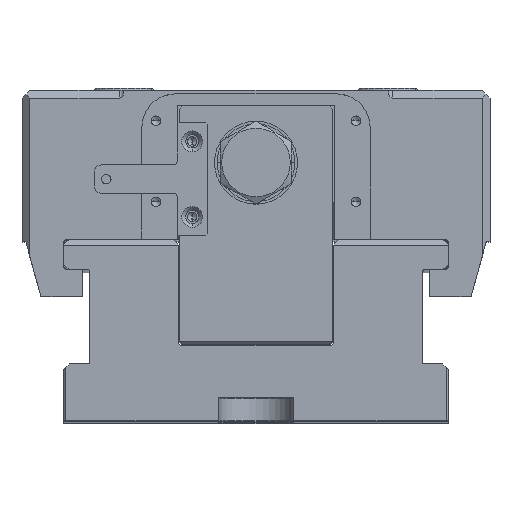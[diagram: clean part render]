
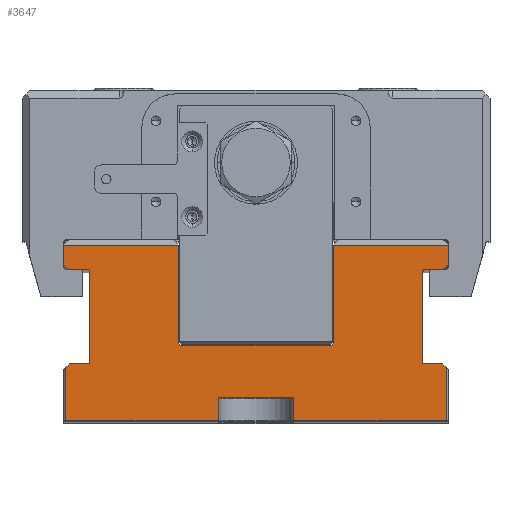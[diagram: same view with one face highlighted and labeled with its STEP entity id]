
A CAD part, top view. The second image highlights one B-rep face of the part: STEP entity #3647.
In plain terms, the highlighted planar face has unit normal (0, 0, 1).
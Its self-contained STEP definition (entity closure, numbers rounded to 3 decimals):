
#711=CARTESIAN_POINT('',(44.8,-8.2,155.));
#712=DIRECTION('',(0.,0.,-1.));
#713=DIRECTION('',(0.,-1.,0.));
#714=AXIS2_PLACEMENT_3D('',#711,#712,#713);
#881=CARTESIAN_POINT('',(-20.,-3.5,155.));
#882=DIRECTION('',(0.,0.,-1.));
#883=DIRECTION('',(0.,-1.,0.));
#884=AXIS2_PLACEMENT_3D('',#881,#882,#883);
#1133=DIRECTION('',(1.,0.,0.));
#1134=VECTOR('',#1133,4.7);
#1135=CARTESIAN_POINT('',(-49.5,-9.,155.));
#1136=LINE('',#1135,#1134);
#1137=DIRECTION('',(0.,1.,0.));
#1138=VECTOR('',#1137,23.4);
#1139=CARTESIAN_POINT('',(-44.,-8.2,155.));
#1140=LINE('',#1139,#1138);
#1141=DIRECTION('',(1.,0.,0.));
#1142=VECTOR('',#1141,4.7);
#1143=CARTESIAN_POINT('',(-49.5,16.,155.));
#1144=LINE('',#1143,#1142);
#1145=DIRECTION('',(0.707,-0.707,0.));
#1146=VECTOR('',#1145,2.121);
#1147=CARTESIAN_POINT('',(-51.,17.5,155.));
#1148=LINE('',#1147,#1146);
#1149=DIRECTION('',(0.,-1.,0.));
#1150=VECTOR('',#1149,5.);
#1151=CARTESIAN_POINT('',(-51.,22.5,155.));
#1152=LINE('',#1151,#1150);
#1153=DIRECTION('',(-1.,0.,0.));
#1154=VECTOR('',#1153,30.5);
#1155=CARTESIAN_POINT('',(-20.5,22.5,155.));
#1156=LINE('',#1155,#1154);
#1157=DIRECTION('',(0.,-1.,0.));
#1158=VECTOR('',#1157,26.);
#1159=CARTESIAN_POINT('',(-20.5,22.5,155.));
#1160=LINE('',#1159,#1158);
#1161=DIRECTION('',(1.,0.,0.));
#1162=VECTOR('',#1161,40.);
#1163=CARTESIAN_POINT('',(-20.,-4.,155.));
#1164=LINE('',#1163,#1162);
#1165=DIRECTION('',(0.,-1.,0.));
#1166=VECTOR('',#1165,26.);
#1167=CARTESIAN_POINT('',(20.5,22.5,155.));
#1168=LINE('',#1167,#1166);
#1169=DIRECTION('',(-1.,0.,0.));
#1170=VECTOR('',#1169,30.5);
#1171=CARTESIAN_POINT('',(51.,22.5,155.));
#1172=LINE('',#1171,#1170);
#1173=DIRECTION('',(0.,1.,0.));
#1174=VECTOR('',#1173,5.);
#1175=CARTESIAN_POINT('',(51.,17.5,155.));
#1176=LINE('',#1175,#1174);
#1177=DIRECTION('',(0.707,0.707,0.));
#1178=VECTOR('',#1177,2.121);
#1179=CARTESIAN_POINT('',(49.5,16.,155.));
#1180=LINE('',#1179,#1178);
#1181=DIRECTION('',(-1.,0.,0.));
#1182=VECTOR('',#1181,4.7);
#1183=CARTESIAN_POINT('',(49.5,16.,155.));
#1184=LINE('',#1183,#1182);
#1185=DIRECTION('',(0.,-1.,0.));
#1186=VECTOR('',#1185,23.4);
#1187=CARTESIAN_POINT('',(44.,15.2,155.));
#1188=LINE('',#1187,#1186);
#1189=DIRECTION('',(-1.,0.,0.));
#1190=VECTOR('',#1189,4.7);
#1191=CARTESIAN_POINT('',(49.5,-9.,155.));
#1192=LINE('',#1191,#1190);
#1193=DIRECTION('',(-0.707,0.707,0.));
#1194=VECTOR('',#1193,1.273);
#1195=CARTESIAN_POINT('',(50.4,-9.9,155.));
#1196=LINE('',#1195,#1194);
#1197=DIRECTION('',(0.,1.,0.));
#1198=VECTOR('',#1197,14.1);
#1199=CARTESIAN_POINT('',(50.4,-24.,155.));
#1200=LINE('',#1199,#1198);
#1201=DIRECTION('',(1.,0.,0.));
#1202=VECTOR('',#1201,40.4);
#1203=CARTESIAN_POINT('',(10.,-24.,155.));
#1204=LINE('',#1203,#1202);
#1205=DIRECTION('',(0.,1.,0.));
#1206=VECTOR('',#1205,6.);
#1207=CARTESIAN_POINT('',(10.,-24.,155.));
#1208=LINE('',#1207,#1206);
#1209=DIRECTION('',(1.,0.,0.));
#1210=VECTOR('',#1209,20.);
#1211=CARTESIAN_POINT('',(-10.,-18.,155.));
#1212=LINE('',#1211,#1210);
#1213=DIRECTION('',(0.,1.,0.));
#1214=VECTOR('',#1213,6.);
#1215=CARTESIAN_POINT('',(-10.,-24.,155.));
#1216=LINE('',#1215,#1214);
#1217=DIRECTION('',(1.,0.,0.));
#1218=VECTOR('',#1217,40.4);
#1219=CARTESIAN_POINT('',(-50.4,-24.,155.));
#1220=LINE('',#1219,#1218);
#1221=DIRECTION('',(0.,-1.,0.));
#1222=VECTOR('',#1221,14.1);
#1223=CARTESIAN_POINT('',(-50.4,-9.9,155.));
#1224=LINE('',#1223,#1222);
#1225=DIRECTION('',(-0.707,-0.707,0.));
#1226=VECTOR('',#1225,1.273);
#1227=CARTESIAN_POINT('',(-49.5,-9.,155.));
#1228=LINE('',#1227,#1226);
#1237=CARTESIAN_POINT('',(-44.8,-8.2,155.));
#1238=DIRECTION('',(0.,0.,-1.));
#1239=DIRECTION('',(1.,0.,0.));
#1240=AXIS2_PLACEMENT_3D('',#1237,#1238,#1239);
#1247=CARTESIAN_POINT('',(-44.8,15.2,155.));
#1248=DIRECTION('',(0.,0.,-1.));
#1249=DIRECTION('',(0.,1.,0.));
#1250=AXIS2_PLACEMENT_3D('',#1247,#1248,#1249);
#1281=CARTESIAN_POINT('',(20.,-3.5,155.));
#1282=DIRECTION('',(0.,0.,-1.));
#1283=DIRECTION('',(1.,0.,0.));
#1284=AXIS2_PLACEMENT_3D('',#1281,#1282,#1283);
#1315=CARTESIAN_POINT('',(44.8,15.2,155.));
#1316=DIRECTION('',(0.,0.,-1.));
#1317=DIRECTION('',(-1.,0.,0.));
#1318=AXIS2_PLACEMENT_3D('',#1315,#1316,#1317);
#1755=CARTESIAN_POINT('',(-10.,-18.,155.));
#1756=CARTESIAN_POINT('',(10.,-18.,155.));
#1757=VERTEX_POINT('',#1755);
#1758=VERTEX_POINT('',#1756);
#1759=CARTESIAN_POINT('',(10.,-24.,155.));
#1760=VERTEX_POINT('',#1759);
#1761=CARTESIAN_POINT('',(-10.,-24.,155.));
#1762=VERTEX_POINT('',#1761);
#1855=CARTESIAN_POINT('',(-20.5,22.5,155.));
#1856=VERTEX_POINT('',#1855);
#1859=CARTESIAN_POINT('',(-51.,22.5,155.));
#1861=VERTEX_POINT('',#1859);
#1885=CARTESIAN_POINT('',(51.,22.5,155.));
#1886=VERTEX_POINT('',#1885);
#1892=CARTESIAN_POINT('',(20.5,22.5,155.));
#1894=VERTEX_POINT('',#1892);
#1922=CARTESIAN_POINT('',(49.5,-9.,155.));
#1924=VERTEX_POINT('',#1922);
#1925=CARTESIAN_POINT('',(-49.5,-9.,155.));
#1927=VERTEX_POINT('',#1925);
#1933=CARTESIAN_POINT('',(49.5,16.,155.));
#1934=VERTEX_POINT('',#1933);
#1935=CARTESIAN_POINT('',(51.,17.5,155.));
#1936=VERTEX_POINT('',#1935);
#1937=CARTESIAN_POINT('',(-51.,17.5,155.));
#1938=CARTESIAN_POINT('',(-49.5,16.,155.));
#1939=VERTEX_POINT('',#1937);
#1940=VERTEX_POINT('',#1938);
#1977=CARTESIAN_POINT('',(-20.,-4.,155.));
#1979=VERTEX_POINT('',#1977);
#1981=CARTESIAN_POINT('',(-20.5,-3.5,155.));
#1983=VERTEX_POINT('',#1981);
#1985=CARTESIAN_POINT('',(20.5,-3.5,155.));
#1987=VERTEX_POINT('',#1985);
#1989=CARTESIAN_POINT('',(20.,-4.,155.));
#1991=VERTEX_POINT('',#1989);
#2026=CARTESIAN_POINT('',(-50.4,-9.9,155.));
#2028=VERTEX_POINT('',#2026);
#2029=CARTESIAN_POINT('',(-50.4,-24.,155.));
#2030=VERTEX_POINT('',#2029);
#2041=CARTESIAN_POINT('',(50.4,-9.9,155.));
#2043=VERTEX_POINT('',#2041);
#2047=CARTESIAN_POINT('',(50.4,-24.,155.));
#2048=VERTEX_POINT('',#2047);
#2057=CARTESIAN_POINT('',(-44.8,16.,155.));
#2059=VERTEX_POINT('',#2057);
#2061=CARTESIAN_POINT('',(-44.,15.2,155.));
#2063=VERTEX_POINT('',#2061);
#2065=CARTESIAN_POINT('',(-44.,-8.2,155.));
#2067=VERTEX_POINT('',#2065);
#2069=CARTESIAN_POINT('',(-44.8,-9.,155.));
#2071=VERTEX_POINT('',#2069);
#2073=CARTESIAN_POINT('',(44.8,-9.,155.));
#2075=VERTEX_POINT('',#2073);
#2077=CARTESIAN_POINT('',(44.,-8.2,155.));
#2079=VERTEX_POINT('',#2077);
#2081=CARTESIAN_POINT('',(44.,15.2,155.));
#2083=VERTEX_POINT('',#2081);
#2085=CARTESIAN_POINT('',(44.8,16.,155.));
#2087=VERTEX_POINT('',#2085);
#3596=CARTESIAN_POINT('',(0.,0.,155.));
#3597=DIRECTION('',(0.,0.,1.));
#3598=DIRECTION('',(1.,0.,0.));
#3599=AXIS2_PLACEMENT_3D('',#3596,#3597,#3598);
#3600=PLANE('',#3599);
#3602=ORIENTED_EDGE('',*,*,#3601,.T.);
#3604=ORIENTED_EDGE('',*,*,#3603,.F.);
#3605=ORIENTED_EDGE('',*,*,#2256,.T.);
#3607=ORIENTED_EDGE('',*,*,#3606,.F.);
#3609=ORIENTED_EDGE('',*,*,#3608,.F.);
#3611=ORIENTED_EDGE('',*,*,#3610,.F.);
#3612=ORIENTED_EDGE('',*,*,#2523,.F.);
#3614=ORIENTED_EDGE('',*,*,#3613,.F.);
#3615=ORIENTED_EDGE('',*,*,#3171,.T.);
#3616=ORIENTED_EDGE('',*,*,#3237,.F.);
#3617=ORIENTED_EDGE('',*,*,#3253,.T.);
#3619=ORIENTED_EDGE('',*,*,#3618,.F.);
#3620=ORIENTED_EDGE('',*,*,#2655,.F.);
#3622=ORIENTED_EDGE('',*,*,#3621,.F.);
#3623=ORIENTED_EDGE('',*,*,#3076,.F.);
#3625=ORIENTED_EDGE('',*,*,#3624,.F.);
#3627=ORIENTED_EDGE('',*,*,#3626,.T.);
#3629=ORIENTED_EDGE('',*,*,#3628,.F.);
#3630=ORIENTED_EDGE('',*,*,#2725,.T.);
#3631=ORIENTED_EDGE('',*,*,#3005,.F.);
#3632=ORIENTED_EDGE('',*,*,#3021,.F.);
#3633=ORIENTED_EDGE('',*,*,#3033,.F.);
#3634=ORIENTED_EDGE('',*,*,#3054,.F.);
#3635=ORIENTED_EDGE('',*,*,#3485,.F.);
#3637=ORIENTED_EDGE('',*,*,#3636,.T.);
#3639=ORIENTED_EDGE('',*,*,#3638,.F.);
#3641=ORIENTED_EDGE('',*,*,#3640,.F.);
#3642=ORIENTED_EDGE('',*,*,#3477,.F.);
#3643=ORIENTED_EDGE('',*,*,#3589,.F.);
#3644=ORIENTED_EDGE('',*,*,#3578,.F.);
#3645=EDGE_LOOP('',(#3602,#3604,#3605,#3607,#3609,#3611,#3612,#3614,#3615,#3616,
#3617,#3619,#3620,#3622,#3623,#3625,#3627,#3629,#3630,#3631,#3632,#3633,#3634,
#3635,#3637,#3639,#3641,#3642,#3643,#3644));
#3646=FACE_OUTER_BOUND('',#3645,.F.);
#3647=ADVANCED_FACE('',(#3646),#3600,.T.);
#715=CIRCLE('',#714,0.8);
#885=CIRCLE('',#884,0.5);
#1241=CIRCLE('',#1240,0.8);
#1251=CIRCLE('',#1250,0.8);
#1285=CIRCLE('',#1284,0.5);
#1319=CIRCLE('',#1318,0.8);
#2256=EDGE_CURVE('',#2067,#2063,#1140,.T.);
#2523=EDGE_CURVE('',#1861,#1939,#1152,.T.);
#2655=EDGE_CURVE('',#1894,#1987,#1168,.T.);
#2725=EDGE_CURVE('',#2083,#2079,#1188,.T.);
#3005=EDGE_CURVE('',#2075,#2079,#715,.T.);
#3021=EDGE_CURVE('',#1924,#2075,#1192,.T.);
#3033=EDGE_CURVE('',#2043,#1924,#1196,.T.);
#3054=EDGE_CURVE('',#2048,#2043,#1200,.T.);
#3076=EDGE_CURVE('',#1936,#1886,#1176,.T.);
#3171=EDGE_CURVE('',#1856,#1983,#1160,.T.);
#3237=EDGE_CURVE('',#1979,#1983,#885,.T.);
#3253=EDGE_CURVE('',#1979,#1991,#1164,.T.);
#3477=EDGE_CURVE('',#2030,#1762,#1220,.T.);
#3485=EDGE_CURVE('',#1760,#2048,#1204,.T.);
#3578=EDGE_CURVE('',#1927,#2028,#1228,.T.);
#3589=EDGE_CURVE('',#2028,#2030,#1224,.T.);
#3601=EDGE_CURVE('',#1927,#2071,#1136,.T.);
#3603=EDGE_CURVE('',#2067,#2071,#1241,.T.);
#3606=EDGE_CURVE('',#2059,#2063,#1251,.T.);
#3608=EDGE_CURVE('',#1940,#2059,#1144,.T.);
#3610=EDGE_CURVE('',#1939,#1940,#1148,.T.);
#3613=EDGE_CURVE('',#1856,#1861,#1156,.T.);
#3618=EDGE_CURVE('',#1987,#1991,#1285,.T.);
#3621=EDGE_CURVE('',#1886,#1894,#1172,.T.);
#3624=EDGE_CURVE('',#1934,#1936,#1180,.T.);
#3626=EDGE_CURVE('',#1934,#2087,#1184,.T.);
#3628=EDGE_CURVE('',#2083,#2087,#1319,.T.);
#3636=EDGE_CURVE('',#1760,#1758,#1208,.T.);
#3638=EDGE_CURVE('',#1757,#1758,#1212,.T.);
#3640=EDGE_CURVE('',#1762,#1757,#1216,.T.);
